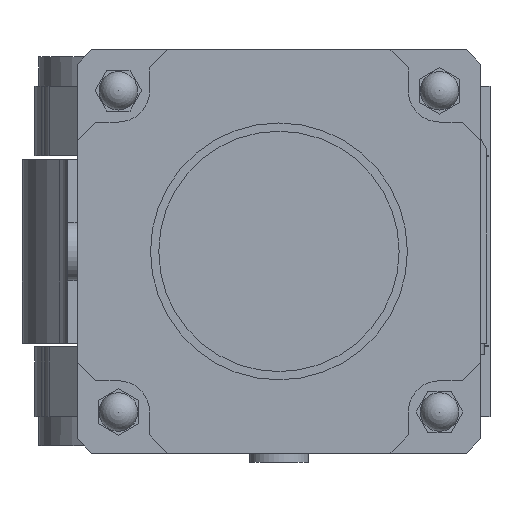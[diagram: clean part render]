
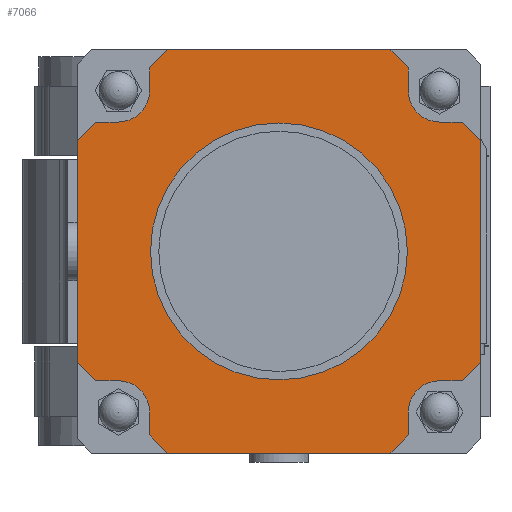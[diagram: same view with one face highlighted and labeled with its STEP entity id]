
A CAD part, front view. The second image highlights one B-rep face of the part: STEP entity #7066.
In plain terms, the highlighted planar face has unit normal (0, -1, 0).
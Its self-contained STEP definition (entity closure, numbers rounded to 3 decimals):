
#351=LINE('',#11135,#1069);
#352=LINE('',#11137,#1070);
#353=LINE('',#11139,#1071);
#354=LINE('',#11143,#1072);
#355=LINE('',#11145,#1073);
#356=LINE('',#11147,#1074);
#357=LINE('',#11149,#1075);
#358=LINE('',#11151,#1076);
#359=LINE('',#11155,#1077);
#360=LINE('',#11157,#1078);
#361=LINE('',#11159,#1079);
#362=LINE('',#11161,#1080);
#363=LINE('',#11163,#1081);
#364=LINE('',#11167,#1082);
#365=LINE('',#11169,#1083);
#366=LINE('',#11171,#1084);
#367=LINE('',#11173,#1085);
#368=LINE('',#11175,#1086);
#369=LINE('',#11179,#1087);
#370=LINE('',#11180,#1088);
#1069=VECTOR('',#8990,1000.);
#1070=VECTOR('',#8991,1000.);
#1071=VECTOR('',#8992,1000.);
#1072=VECTOR('',#8995,1000.);
#1073=VECTOR('',#8996,1000.);
#1074=VECTOR('',#8997,1000.);
#1075=VECTOR('',#8998,1000.);
#1076=VECTOR('',#8999,1000.);
#1077=VECTOR('',#9002,1000.);
#1078=VECTOR('',#9003,1000.);
#1079=VECTOR('',#9004,1000.);
#1080=VECTOR('',#9005,1000.);
#1081=VECTOR('',#9006,1000.);
#1082=VECTOR('',#9009,1000.);
#1083=VECTOR('',#9010,1000.);
#1084=VECTOR('',#9011,1000.);
#1085=VECTOR('',#9012,1000.);
#1086=VECTOR('',#9013,1000.);
#1087=VECTOR('',#9016,1000.);
#1088=VECTOR('',#9017,1000.);
#1612=PLANE('',#7791);
#1916=FACE_BOUND('',#2646,.T.);
#2138=FACE_OUTER_BOUND('',#2645,.T.);
#2645=EDGE_LOOP('',(#5478,#5479,#5480,#5481,#5482,#5483,#5484,#5485,#5486,
#5487,#5488,#5489,#5490,#5491,#5492,#5493,#5494,#5495,#5496,#5497,#5498,
#5499,#5500,#5501));
#2646=EDGE_LOOP('',(#5502));
#3094=CIRCLE('',#7773,70.);
#3101=CIRCLE('',#7792,17.);
#3102=CIRCLE('',#7793,17.);
#3103=CIRCLE('',#7794,17.);
#3104=CIRCLE('',#7795,17.);
#3446=VERTEX_POINT('',#10939);
#3537=VERTEX_POINT('',#11133);
#3538=VERTEX_POINT('',#11134);
#3539=VERTEX_POINT('',#11136);
#3540=VERTEX_POINT('',#11138);
#3541=VERTEX_POINT('',#11140);
#3542=VERTEX_POINT('',#11142);
#3543=VERTEX_POINT('',#11144);
#3544=VERTEX_POINT('',#11146);
#3545=VERTEX_POINT('',#11148);
#3546=VERTEX_POINT('',#11150);
#3547=VERTEX_POINT('',#11152);
#3548=VERTEX_POINT('',#11154);
#3549=VERTEX_POINT('',#11156);
#3550=VERTEX_POINT('',#11158);
#3551=VERTEX_POINT('',#11160);
#3552=VERTEX_POINT('',#11162);
#3553=VERTEX_POINT('',#11164);
#3554=VERTEX_POINT('',#11166);
#3555=VERTEX_POINT('',#11168);
#3556=VERTEX_POINT('',#11170);
#3557=VERTEX_POINT('',#11172);
#3558=VERTEX_POINT('',#11174);
#3559=VERTEX_POINT('',#11176);
#3560=VERTEX_POINT('',#11178);
#4186=EDGE_CURVE('',#3446,#3446,#3094,.T.);
#4277=EDGE_CURVE('',#3537,#3538,#351,.T.);
#4278=EDGE_CURVE('',#3539,#3538,#352,.T.);
#4279=EDGE_CURVE('',#3540,#3539,#353,.T.);
#4280=EDGE_CURVE('',#3541,#3540,#3101,.T.);
#4281=EDGE_CURVE('',#3542,#3541,#354,.T.);
#4282=EDGE_CURVE('',#3543,#3542,#355,.T.);
#4283=EDGE_CURVE('',#3543,#3544,#356,.T.);
#4284=EDGE_CURVE('',#3545,#3544,#357,.T.);
#4285=EDGE_CURVE('',#3546,#3545,#358,.T.);
#4286=EDGE_CURVE('',#3547,#3546,#3102,.T.);
#4287=EDGE_CURVE('',#3548,#3547,#359,.T.);
#4288=EDGE_CURVE('',#3549,#3548,#360,.T.);
#4289=EDGE_CURVE('',#3549,#3550,#361,.T.);
#4290=EDGE_CURVE('',#3551,#3550,#362,.T.);
#4291=EDGE_CURVE('',#3552,#3551,#363,.T.);
#4292=EDGE_CURVE('',#3553,#3552,#3103,.T.);
#4293=EDGE_CURVE('',#3554,#3553,#364,.T.);
#4294=EDGE_CURVE('',#3555,#3554,#365,.T.);
#4295=EDGE_CURVE('',#3555,#3556,#366,.T.);
#4296=EDGE_CURVE('',#3557,#3556,#367,.T.);
#4297=EDGE_CURVE('',#3558,#3557,#368,.T.);
#4298=EDGE_CURVE('',#3559,#3558,#3104,.T.);
#4299=EDGE_CURVE('',#3560,#3559,#369,.T.);
#4300=EDGE_CURVE('',#3537,#3560,#370,.T.);
#5478=ORIENTED_EDGE('',*,*,#4277,.T.);
#5479=ORIENTED_EDGE('',*,*,#4278,.F.);
#5480=ORIENTED_EDGE('',*,*,#4279,.F.);
#5481=ORIENTED_EDGE('',*,*,#4280,.F.);
#5482=ORIENTED_EDGE('',*,*,#4281,.F.);
#5483=ORIENTED_EDGE('',*,*,#4282,.F.);
#5484=ORIENTED_EDGE('',*,*,#4283,.T.);
#5485=ORIENTED_EDGE('',*,*,#4284,.F.);
#5486=ORIENTED_EDGE('',*,*,#4285,.F.);
#5487=ORIENTED_EDGE('',*,*,#4286,.F.);
#5488=ORIENTED_EDGE('',*,*,#4287,.F.);
#5489=ORIENTED_EDGE('',*,*,#4288,.F.);
#5490=ORIENTED_EDGE('',*,*,#4289,.T.);
#5491=ORIENTED_EDGE('',*,*,#4290,.F.);
#5492=ORIENTED_EDGE('',*,*,#4291,.F.);
#5493=ORIENTED_EDGE('',*,*,#4292,.F.);
#5494=ORIENTED_EDGE('',*,*,#4293,.F.);
#5495=ORIENTED_EDGE('',*,*,#4294,.F.);
#5496=ORIENTED_EDGE('',*,*,#4295,.T.);
#5497=ORIENTED_EDGE('',*,*,#4296,.F.);
#5498=ORIENTED_EDGE('',*,*,#4297,.F.);
#5499=ORIENTED_EDGE('',*,*,#4298,.F.);
#5500=ORIENTED_EDGE('',*,*,#4299,.F.);
#5501=ORIENTED_EDGE('',*,*,#4300,.F.);
#5502=ORIENTED_EDGE('',*,*,#4186,.F.);
#7066=ADVANCED_FACE('',(#2138,#1916),#1612,.F.);
#7773=AXIS2_PLACEMENT_3D('',#10940,#8868,#8869);
#7791=AXIS2_PLACEMENT_3D('',#11132,#8988,#8989);
#7792=AXIS2_PLACEMENT_3D('',#11141,#8993,#8994);
#7793=AXIS2_PLACEMENT_3D('',#11153,#9000,#9001);
#7794=AXIS2_PLACEMENT_3D('',#11165,#9007,#9008);
#7795=AXIS2_PLACEMENT_3D('',#11177,#9014,#9015);
#8868=DIRECTION('center_axis',(0.,-1.,0.));
#8869=DIRECTION('ref_axis',(0.,0.,1.));
#8988=DIRECTION('center_axis',(0.,1.,0.));
#8989=DIRECTION('ref_axis',(0.,0.,1.));
#8990=DIRECTION('',(0.,0.,-1.));
#8991=DIRECTION('',(-0.707,0.,0.707));
#8992=DIRECTION('',(-1.,0.,0.));
#8993=DIRECTION('center_axis',(0.,-1.,0.));
#8994=DIRECTION('ref_axis',(1.,0.,0.));
#8995=DIRECTION('',(0.,0.,1.));
#8996=DIRECTION('',(-0.707,0.,0.707));
#8997=DIRECTION('',(1.,0.,0.));
#8998=DIRECTION('',(-0.707,0.,-0.707));
#8999=DIRECTION('',(0.,0.,-1.));
#9000=DIRECTION('center_axis',(0.,-1.,0.));
#9001=DIRECTION('ref_axis',(0.,0.,1.));
#9002=DIRECTION('',(-1.,0.,0.));
#9003=DIRECTION('',(-0.707,0.,-0.707));
#9004=DIRECTION('',(0.,0.,1.));
#9005=DIRECTION('',(0.707,0.,-0.707));
#9006=DIRECTION('',(1.,0.,0.));
#9007=DIRECTION('center_axis',(0.,-1.,0.));
#9008=DIRECTION('ref_axis',(-1.,0.,0.));
#9009=DIRECTION('',(0.,0.,-1.));
#9010=DIRECTION('',(0.707,0.,-0.707));
#9011=DIRECTION('',(-1.,0.,0.));
#9012=DIRECTION('',(0.707,0.,0.707));
#9013=DIRECTION('',(0.,0.,1.));
#9014=DIRECTION('center_axis',(0.,-1.,0.));
#9015=DIRECTION('ref_axis',(0.,0.,-1.));
#9016=DIRECTION('',(1.,0.,0.));
#9017=DIRECTION('',(0.707,0.,0.707));
#10939=CARTESIAN_POINT('',(80.,-611.,70.));
#10940=CARTESIAN_POINT('Origin',(80.,-611.,0.));
#11132=CARTESIAN_POINT('Origin',(80.,-611.,0.));
#11133=CARTESIAN_POINT('',(-30.,-611.,60.5));
#11134=CARTESIAN_POINT('',(-30.,-611.,-60.5));
#11135=CARTESIAN_POINT('',(-30.,-611.,102.));
#11136=CARTESIAN_POINT('',(-20.,-611.,-70.5));
#11137=CARTESIAN_POINT('',(-30.,-611.,-60.5));
#11138=CARTESIAN_POINT('',(-7.5,-611.,-70.5));
#11139=CARTESIAN_POINT('',(-20.,-611.,-70.5));
#11140=CARTESIAN_POINT('',(9.5,-611.,-87.5));
#11141=CARTESIAN_POINT('Origin',(-7.5,-611.,-87.5));
#11142=CARTESIAN_POINT('',(9.5,-611.,-100.));
#11143=CARTESIAN_POINT('',(9.5,-611.,-87.5));
#11144=CARTESIAN_POINT('',(19.5,-611.,-110.));
#11145=CARTESIAN_POINT('',(9.5,-611.,-100.));
#11146=CARTESIAN_POINT('',(140.5,-611.,-110.));
#11147=CARTESIAN_POINT('',(-22.,-611.,-110.));
#11148=CARTESIAN_POINT('',(150.5,-611.,-100.));
#11149=CARTESIAN_POINT('',(140.5,-611.,-110.));
#11150=CARTESIAN_POINT('',(150.5,-611.,-87.5));
#11151=CARTESIAN_POINT('',(150.5,-611.,-100.));
#11152=CARTESIAN_POINT('',(167.5,-611.,-70.5));
#11153=CARTESIAN_POINT('Origin',(167.5,-611.,-87.5));
#11154=CARTESIAN_POINT('',(180.,-611.,-70.5));
#11155=CARTESIAN_POINT('',(167.5,-611.,-70.5));
#11156=CARTESIAN_POINT('',(190.,-611.,-60.5));
#11157=CARTESIAN_POINT('',(180.,-611.,-70.5));
#11158=CARTESIAN_POINT('',(190.,-611.,60.5));
#11159=CARTESIAN_POINT('',(190.,-611.,102.));
#11160=CARTESIAN_POINT('',(180.,-611.,70.5));
#11161=CARTESIAN_POINT('',(190.,-611.,60.5));
#11162=CARTESIAN_POINT('',(167.5,-611.,70.5));
#11163=CARTESIAN_POINT('',(180.,-611.,70.5));
#11164=CARTESIAN_POINT('',(150.5,-611.,87.5));
#11165=CARTESIAN_POINT('Origin',(167.5,-611.,87.5));
#11166=CARTESIAN_POINT('',(150.5,-611.,100.));
#11167=CARTESIAN_POINT('',(150.5,-611.,87.5));
#11168=CARTESIAN_POINT('',(140.5,-611.,110.));
#11169=CARTESIAN_POINT('',(150.5,-611.,100.));
#11170=CARTESIAN_POINT('',(19.5,-611.,110.));
#11171=CARTESIAN_POINT('',(-22.,-611.,110.));
#11172=CARTESIAN_POINT('',(9.5,-611.,100.));
#11173=CARTESIAN_POINT('',(19.5,-611.,110.));
#11174=CARTESIAN_POINT('',(9.5,-611.,87.5));
#11175=CARTESIAN_POINT('',(9.5,-611.,100.));
#11176=CARTESIAN_POINT('',(-7.5,-611.,70.5));
#11177=CARTESIAN_POINT('Origin',(-7.5,-611.,87.5));
#11178=CARTESIAN_POINT('',(-20.,-611.,70.5));
#11179=CARTESIAN_POINT('',(-7.5,-611.,70.5));
#11180=CARTESIAN_POINT('',(-20.,-611.,70.5));
